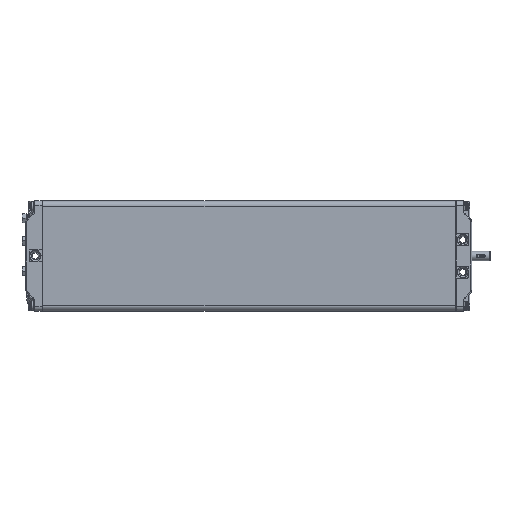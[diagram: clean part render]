
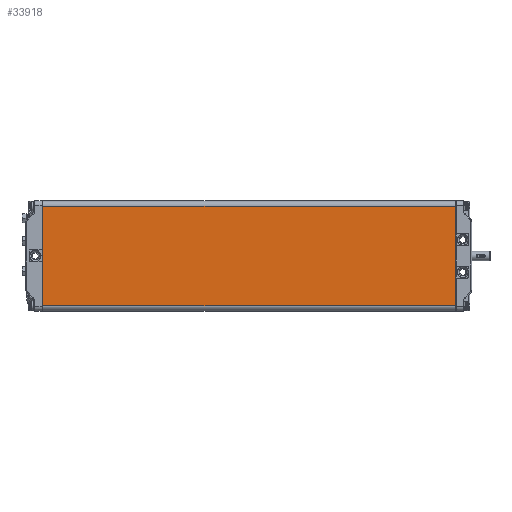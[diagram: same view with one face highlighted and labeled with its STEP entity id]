
A CAD part, top view. The second image highlights one B-rep face of the part: STEP entity #33918.
In plain terms, the highlighted planar face has unit normal (0, 0, 1).
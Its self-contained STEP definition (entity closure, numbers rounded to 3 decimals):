
#3531=LINE('',#72337,#4816);
#3532=LINE('',#72340,#4817);
#3533=LINE('',#72342,#4818);
#3534=LINE('',#72344,#4819);
#4816=VECTOR('',#41177,1000.);
#4817=VECTOR('',#41178,1000.);
#4818=VECTOR('',#41179,1000.);
#4819=VECTOR('',#41180,1000.);
#10128=ORIENTED_EDGE('',*,*,#16199,.T.);
#10129=ORIENTED_EDGE('',*,*,#16200,.T.);
#10130=ORIENTED_EDGE('',*,*,#16201,.T.);
#10131=ORIENTED_EDGE('',*,*,#16202,.T.);
#16199=EDGE_CURVE('',#19463,#19464,#3531,.F.);
#16200=EDGE_CURVE('',#19464,#19465,#3532,.T.);
#16201=EDGE_CURVE('',#19465,#19466,#3533,.T.);
#16202=EDGE_CURVE('',#19466,#19463,#3534,.F.);
#19463=VERTEX_POINT('',#72338);
#19464=VERTEX_POINT('',#72339);
#19465=VERTEX_POINT('',#72341);
#19466=VERTEX_POINT('',#72343);
#22967=EDGE_LOOP('',(#10128,#10129,#10130,#10131));
#24959=FACE_BOUND('',#22967,.T.);
#26096=PLANE('',#36194);
#33918=ADVANCED_FACE('',(#24959),#26096,.T.);
#36194=AXIS2_PLACEMENT_3D('',#72336,#41175,#41176);
#41175=DIRECTION('',(0.,0.,1.));
#41176=DIRECTION('',(1.,0.,0.));
#41177=DIRECTION('',(0.,-1.,0.));
#41178=DIRECTION('',(-1.,0.,0.));
#41179=DIRECTION('',(0.,-1.,0.));
#41180=DIRECTION('',(-1.,0.,0.));
#72336=CARTESIAN_POINT('',(60.,450.5,30.));
#72337=CARTESIAN_POINT('',(54.,450.5,30.));
#72338=CARTESIAN_POINT('',(54.,0.5,30.));
#72339=CARTESIAN_POINT('',(54.,450.,30.));
#72340=CARTESIAN_POINT('',(60.,450.,30.));
#72341=CARTESIAN_POINT('',(-54.,450.,30.));
#72342=CARTESIAN_POINT('',(-54.,450.5,30.));
#72343=CARTESIAN_POINT('',(-54.,0.5,30.));
#72344=CARTESIAN_POINT('',(54.,0.5,30.));
